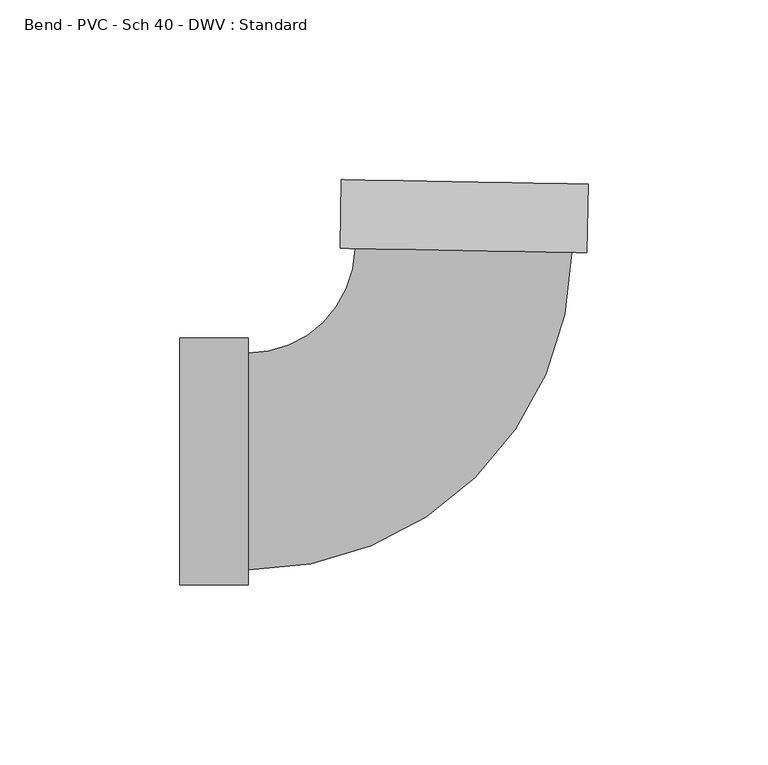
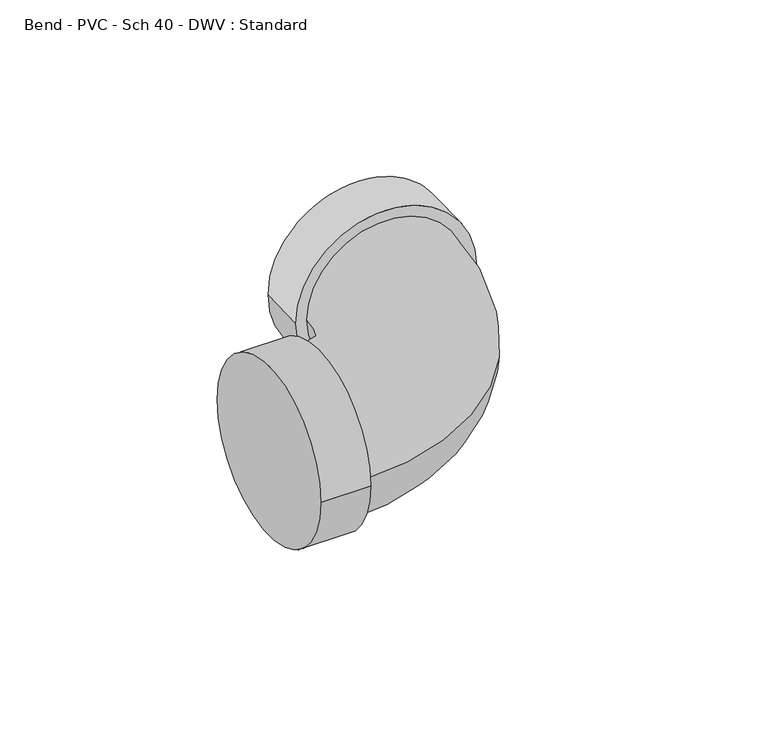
"""IFC4 building model written with IfcOpenShell, lengths in millimetres: pipe fitting geometry, Bend - PVC - Sch 40 - DWV : Standard."""

import ifcopenshell
import ifcopenshell.guid

model = None  # the IFC model being written
_history = None  # IfcOwnerHistory: only IFC2X3 demands one
_inside = {}  # id of a spatial element -> (the spatial element, [elements in it])
_under = {}  # id of a project, library or spatial element -> (it, [spatial elements below it])
_declared = {}  # id of a project -> (the project, [libraries it declares])
_typed = {}  # id of a type object -> (the type object, [elements of that type])
_made_of = {}  # id of a material, layer set ... -> (it, [elements and type objects made of it])


def new_model(schema):
    """Start an empty IFC model of exactly this schema.

    Asked for "IFC4X3", IfcOpenShell would pick the latest addendum, in which some entities
    have other attributes; the version numbers below select the first issue.
    IFC2X3 requires an IfcOwnerHistory on every rooted entity: one is made here for all.
    """
    global model, _history
    if schema == "IFC4X3":
        model = ifcopenshell.file(schema_version=(4, 3, 0, 0))
    else:
        model = ifcopenshell.file(schema=schema)
    _inside.clear()
    _under.clear()
    _declared.clear()
    _typed.clear()
    _made_of.clear()
    _history = None
    if model.schema == "IFC2X3":
        org = make("IfcOrganization", Name="unknown")
        user = make(
            "IfcPersonAndOrganization",
            ThePerson=make("IfcPerson", FamilyName="unknown"),
            TheOrganization=org,
        )
        app = make(
            "IfcApplication",
            ApplicationDeveloper=org,
            Version="unknown",
            ApplicationFullName="unknown",
            ApplicationIdentifier="unknown",
        )
        _history = make(
            "IfcOwnerHistory",
            OwningUser=user,
            OwningApplication=app,
            ChangeAction="ADDED",
            CreationDate=0,
        )
    return model


def make(cls, **values):
    """One entity of the class cls with the attributes given. An attribute that is None is left unset."""
    return model.create_entity(
        cls, **{name: value for name, value in values.items() if value is not None}
    )


def rooted(cls, **values):
    """An entity with a GlobalId (a new one), such as an element, a storey or a relation."""
    return make(cls, GlobalId=ifcopenshell.guid.new(), OwnerHistory=_history, **values)


def si_unit(unit_type, name, prefix=None):
    """IfcSIUnit, for example si_unit("LENGTHUNIT", "METRE", prefix="MILLI")."""
    return make("IfcSIUnit", UnitType=unit_type, Prefix=prefix, Name=name)


def assignment(units):
    """IfcUnitAssignment: the units of a project."""
    return None if units is None else make("IfcUnitAssignment", Units=units)


def point(xyz):
    """IfcCartesianPoint."""
    return None if xyz is None else make("IfcCartesianPoint", Coordinates=xyz)


def direction(xyz):
    """IfcDirection."""
    return None if xyz is None else make("IfcDirection", DirectionRatios=xyz)


def frame(location, z_axis=None, x_axis=None):
    """IfcAxis2Placement3D, a coordinate frame: its origin and axes. An axis left out is left unset."""
    return make(
        "IfcAxis2Placement3D",
        Location=point(location),
        Axis=direction(z_axis),
        RefDirection=direction(x_axis),
    )


def origin():
    """The frame at (0, 0, 0) with its axes left unset."""
    return frame((0.0, 0.0, 0.0))


def place(relative_to, where):
    """IfcLocalPlacement: puts the frame where relative to a parent placement (None: the world)."""
    return make(
        "IfcLocalPlacement", PlacementRelTo=relative_to, RelativePlacement=where
    )


def context(
    kind, dimensions, precision=None, world=None, true_north=None, identifier=None
):
    """IfcGeometricRepresentationContext, for example the 3D "Model" context."""
    return make(
        "IfcGeometricRepresentationContext",
        ContextIdentifier=identifier,
        ContextType=kind,
        CoordinateSpaceDimension=dimensions,
        Precision=precision,
        WorldCoordinateSystem=world,
        TrueNorth=true_north,
    )


def project(units=None, contexts=None):
    """IfcProject with its units and contexts."""
    return rooted(
        "IfcProject",
        Name="project",
        RepresentationContexts=contexts,
        UnitsInContext=assignment(units),
    )


def spatial(cls, under=None, at=None, **own):
    """A site, building, storey or space (cls), placed at a placement, below another one or the project."""
    s = rooted(cls, ObjectPlacement=at, **own)
    if under is not None:
        _under.setdefault(under.id(), (under, []))[1].append(s)
    return s


def circle_curve(where, radius):
    """IfcCircle in the frame where."""
    return make("IfcCircle", Position=where, Radius=radius)


def ellipse_curve(where, semi_axis1, semi_axis2):
    """IfcEllipse in the frame where."""
    return make(
        "IfcEllipse", Position=where, SemiAxis1=semi_axis1, SemiAxis2=semi_axis2
    )


def trimmed(basis, trim1, trim2, sense, master):
    """IfcTrimmedCurve: the piece of a basis curve between two trims."""
    return make(
        "IfcTrimmedCurve",
        BasisCurve=basis,
        Trim1=trim1,
        Trim2=trim2,
        SenseAgreement=sense,
        MasterRepresentation=master,
    )


def shape(context_of_items, identifier, shape_type, items):
    """IfcShapeRepresentation: the items that make up one representation, for example the "Body"."""
    return make(
        "IfcShapeRepresentation",
        ContextOfItems=context_of_items,
        RepresentationIdentifier=identifier,
        RepresentationType=shape_type,
        Items=items,
    )


def source(mapping_origin, context_of_items, identifier, shape_type, items):
    """IfcRepresentationMap: a shape defined once, which mapped items show again and again."""
    return make(
        "IfcRepresentationMap",
        MappingOrigin=mapping_origin,
        MappedRepresentation=shape(context_of_items, identifier, shape_type, items),
    )


def transform(
    local_origin,
    x_axis=None,
    y_axis=None,
    z_axis=None,
    scale=None,
    scale2=None,
    scale3=None,
    uniform=True,
):
    """IfcCartesianTransformationOperator3D, or its non-uniform kind. x_axis, y_axis, z_axis: its Axis1, 2, 3."""
    if uniform:
        return make(
            "IfcCartesianTransformationOperator3D",
            Axis1=direction(x_axis),
            Axis2=direction(y_axis),
            LocalOrigin=point(local_origin),
            Scale=scale,
            Axis3=direction(z_axis),
        )
    return make(
        "IfcCartesianTransformationOperator3DnonUniform",
        Axis1=direction(x_axis),
        Axis2=direction(y_axis),
        LocalOrigin=point(local_origin),
        Scale=scale,
        Axis3=direction(z_axis),
        Scale2=scale2,
        Scale3=scale3,
    )


def mapped(mapping_source, mapping_target):
    """IfcMappedItem: shows the shape of a source again, moved by a transform."""
    return make(
        "IfcMappedItem", MappingSource=mapping_source, MappingTarget=mapping_target
    )


def made_of(thing, what):
    """Note that an element or type object is made of a material, layer set ...; save() writes the relation."""
    if what is not None:
        _made_of.setdefault(what.id(), (what, []))[1].append(thing)
    return thing


def element(
    cls,
    number,
    at=None,
    inside=None,
    cuts=None,
    type_object=None,
    material=None,
    context=None,
    identifier="Body",
    shape_type=None,
    held_by="IfcProductDefinitionShape",
    body=None,
    shapes=None,
    **own,
):
    """One element of the class cls, such as IfcWall. Its Tag is "e" and its number.

    at: its placement. inside: the storey or other place that contains it. cuts: it is an
    opening in that element (IfcRelVoidsElement). A single representation is given by context,
    identifier, shape_type and body (its items); several are given by shapes. held_by: the class
    of the entity that holds the representations. save() writes the other relations.
    """
    e = rooted(cls, Tag="e%d" % number, ObjectPlacement=at, **own)
    if body is not None:
        shapes = [shape(context, identifier, shape_type, body)]
    if shapes is not None:
        e.Representation = make(held_by, Representations=shapes)
    if inside is not None:
        _inside.setdefault(inside.id(), (inside, []))[1].append(e)
    if cuts is not None:
        rooted(
            "IfcRelVoidsElement", RelatingBuildingElement=cuts, RelatedOpeningElement=e
        )
    if type_object is not None:
        _typed.setdefault(type_object.id(), (type_object, []))[1].append(e)
    return made_of(e, material)


def aggregate(whole, parts):
    """IfcRelAggregates: a whole, such as a stair, and the parts it consists of."""
    return rooted("IfcRelAggregates", RelatingObject=whole, RelatedObjects=parts)


def save(model, path):
    """Write the relations noted so far, then the file.

    IfcRelAggregates (storeys below a building ...), IfcRelContainedInSpatialStructure (elements
    in a storey), IfcRelDefinesByType, IfcRelAssociatesMaterial and IfcRelDeclares: one each for
    every whole, place, type object, material and project.
    """
    for whole, parts in _under.values():
        aggregate(whole, parts)
    for where, things in _inside.values():
        rooted(
            "IfcRelContainedInSpatialStructure",
            RelatedElements=things,
            RelatingStructure=where,
        )
    for kind, things in _typed.values():
        rooted("IfcRelDefinesByType", RelatedObjects=things, RelatingType=kind)
    for what, things in _made_of.values():
        rooted("IfcRelAssociatesMaterial", RelatedObjects=things, RelatingMaterial=what)
    for by, libraries in _declared.values():
        rooted("IfcRelDeclares", RelatingContext=by, RelatedDefinitions=libraries)
    model.write(path)


def plane_surface(at):
    """IfcPlane: the flat surface through the origin of the frame at, square to its z axis."""
    return make("IfcPlane", Position=at)


def cylinder_surface(at, radius):
    """IfcCylindricalSurface: all points at the distance radius from the z axis of the frame at."""
    return make("IfcCylindricalSurface", Position=at, Radius=radius)


def revolved_surface(curve, axis_point, axis_direction):
    """IfcSurfaceOfRevolution: the curve turned about the line through axis_point along axis_direction."""
    return make(
        "IfcSurfaceOfRevolution",
        SweptCurve=make("IfcArbitraryOpenProfileDef", ProfileType="CURVE", Curve=curve),
        AxisPosition=make("IfcAxis1Placement", Location=point(axis_point), Axis=direction(axis_direction)),
    )


def advanced_brep(points, edges, surfaces, faces):
    """IfcAdvancedBrep: a solid bounded by faces that lie on surfaces and meet in shared edges.

    An edge is (start, end): straight between two places in points (the first is 0);
    or (start, end, curve); or (start, end, curve, False) where it runs against its curve.
    A face is (place in surfaces, loops), or (place, loops, False) where it looks against
    its surface's normal. A loop lists edges by number (the first is 1), with a minus sign
    where the edge is run from its end to its start. The first loop is the outer one.
    """
    corners = [point(p) for p in points]
    vertices = [make("IfcVertexPoint", VertexGeometry=c) for c in corners]
    made = []
    for start, end, *more in edges:
        made.append(
            make(
                "IfcEdgeCurve",
                EdgeStart=vertices[start],
                EdgeEnd=vertices[end],
                EdgeGeometry=more[0] if more else make("IfcPolyline", Points=[corners[start], corners[end]]),
                SameSense=more[1] if len(more) > 1 else True,
            )
        )
    hull = []
    for where, loops, *sense in faces:
        bounds = []
        for j, loop in enumerate(loops):
            ring = [make("IfcOrientedEdge", EdgeElement=made[abs(k) - 1], Orientation=k > 0) for k in loop]
            bounds.append(
                make(
                    "IfcFaceOuterBound" if j == 0 else "IfcFaceBound",
                    Bound=make("IfcEdgeLoop", EdgeList=ring),
                    Orientation=True,
                )
            )
        hull.append(make("IfcAdvancedFace", Bounds=bounds, FaceSurface=surfaces[where], SameSense=sense[0] if sense else True))
    return make("IfcAdvancedBrep", Outer=make("IfcClosedShell", CfsFaces=hull))


def bend_pvc_sch_40_dwv_standard_a5f90810(model_context):
    return source(origin(), model_context, "Body", "AdvancedBrep", [
        advanced_brep(
        [(-77.8002, -34.3154, 0.0), (-77.8002, 34.3154, 0.0), (-58.7502, -34.3154, 0.0), (-58.7502, 34.3154, 0.0), (-58.7502, -30.1625, 0.0), (-58.7502, 30.1625, 0.0), (-29.104435, 59.2814834, 0.0), (31.2108706, 58.200034, 0.0), (35.3631033, 58.1255848, 0.0), (-33.2566676, 59.3559326, 0.0), (35.7046136, 77.1725234, 0.0), (-32.9151573, 78.4028712, 0.0)],
        [
            (0, 1, circle_curve(frame((-77.8002, 0.0, 0.0), z_axis=(-1.0, 0.0, 0.0), x_axis=(0.0, 1.0, 0.0)), 34.3154)),
            (1, 0, circle_curve(frame((-77.8002, 0.0, 0.0), z_axis=(-1.0, 0.0, 0.0), x_axis=(0.0, 1.0, 0.0)), 34.3154)),
            (2, 3, circle_curve(frame((-58.7502, 0.0, 0.0), z_axis=(1.0, 0.0, 0.0), x_axis=(0.0, 1.0, 0.0)), 34.3154)),
            (3, 2, circle_curve(frame((-58.7502, 0.0, 0.0), z_axis=(1.0, 0.0, 0.0), x_axis=(0.0, 1.0, 0.0)), 34.3154)),
            (4, 5, circle_curve(frame((-58.7502, 0.0, 0.0), z_axis=(-1.0, 0.0, 0.0), x_axis=(0.0, 1.0, 0.0)), 30.1625)),
            (5, 4, circle_curve(frame((-58.7502, 0.0, 0.0), z_axis=(-1.0, 0.0, 0.0), x_axis=(0.0, 1.0, 0.0)), 30.1625)),
            (0, 2),
            (3, 1),
            (6, 5, circle_curve(frame((-58.7502, 59.8130299, 0.0), z_axis=(0.0, 0.0, -1.0), x_axis=(0.0, -1.0, 0.0)), 29.6505299)),
            (4, 7, circle_curve(frame((-58.7502, 59.8130299, 0.0), z_axis=(0.0, 0.0, 1.0), x_axis=(0.0, -1.0, 0.0)), 89.9755299)),
            (7, 6, circle_curve(frame((1.0532178, 58.7407587, 0.0), z_axis=(-0.017927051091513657, -0.9998392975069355, 0.0), x_axis=(-0.9998392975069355, 0.017927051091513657, 0.0)), 30.1625)),
            (6, 7, circle_curve(frame((1.0532178, 58.7407587, 0.0), z_axis=(-0.017927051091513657, -0.9998392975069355, 0.0), x_axis=(-0.9998392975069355, 0.017927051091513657, 0.0)), 30.1625)),
            (8, 9, circle_curve(frame((1.0532178, 58.7407587, 0.0), z_axis=(-0.017927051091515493, -0.9998392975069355, 0.0), x_axis=(-0.9998392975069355, 0.017927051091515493, 0.0)), 34.3154)),
            (9, 8, circle_curve(frame((1.0532178, 58.7407587, 0.0), z_axis=(-0.017927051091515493, -0.9998392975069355, 0.0), x_axis=(-0.9998392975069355, 0.017927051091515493, 0.0)), 34.3154)),
            (10, 11, circle_curve(frame((1.3947282, 77.7876973, 0.0), z_axis=(0.017927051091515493, 0.9998392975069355, 0.0), x_axis=(-0.9998392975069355, 0.017927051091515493, 0.0)), 34.3154)),
            (11, 10, circle_curve(frame((1.3947282, 77.7876973, 0.0), z_axis=(0.017927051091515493, 0.9998392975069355, 0.0), x_axis=(-0.9998392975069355, 0.017927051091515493, 0.0)), 34.3154)),
            (8, 10),
            (11, 9),
        ],
        [
            plane_surface(frame((-77.8002, 0.0, 0.0), z_axis=(-1.0, 0.0, 0.0), x_axis=(0.0, 0.0, 1.0))),
            plane_surface(frame((-58.7502, 0.0, 0.0), z_axis=(1.0, 0.0, 0.0), x_axis=(0.0, 0.0, 1.0))),
            cylinder_surface(frame((-77.8002, 0.0, 0.0), z_axis=(-1.0, 0.0, 0.0), x_axis=(0.0, 1.0, 0.0)), 34.3154),
            revolved_surface(trimmed(ellipse_curve(frame((-58.7502, 0.0, 0.0), z_axis=(-1.0, 0.0, 0.0), x_axis=(0.0, 1.0, 0.0)), 30.1625, 30.1625), [point((-58.7502, -30.1625, 0.0))], [point((-58.7502, 30.1625, 0.0))], True, "CARTESIAN"), (-58.7502, 59.8130299, 0.0), (0.0, 0.0, 1.0)),
            revolved_surface(trimmed(ellipse_curve(frame((-58.7502, 0.0, 0.0), z_axis=(-1.0, 0.0, 0.0), x_axis=(0.0, 1.0, 0.0)), 30.1625, 30.1625), [point((-58.7502, 30.1625, 0.0))], [point((-58.7502, -30.1625, 0.0))], True, "CARTESIAN"), (-58.7502, 59.8130299, 0.0), (0.0, 0.0, 1.0)),
            plane_surface(frame((1.0532178, 58.7407587, 0.0), z_axis=(-0.017927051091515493, -0.9998392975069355, 0.0), x_axis=(0.0, 0.0, 1.0))),
            plane_surface(frame((1.3947282, 77.7876973, 0.0), z_axis=(0.017927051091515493, 0.9998392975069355, 0.0), x_axis=(0.0, 0.0, 1.0))),
            cylinder_surface(frame((1.0532178, 58.7407587, 0.0), z_axis=(-0.017927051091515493, -0.9998392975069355, 0.0), x_axis=(-0.9998392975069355, 0.017927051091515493, 0.0)), 34.3154),
        ],
        [
            (0, [[1, 2]]),
            (1, [[3, 4], [5, 6]]),
            (2, [[-1, 7, -4, 8]]),
            (2, [[-2, -8, -3, -7]]),
            (3, [[9, -5, 10, 11]]),
            (4, [[-9, 12, -10, -6]]),
            (5, [[13, 14], [-11, -12]]),
            (6, [[15, 16]]),
            (7, [[-13, 17, -16, 18]]),
            (7, [[-14, -18, -15, -17]]),
        ],
    ),
    ])


if __name__ == "__main__":
    model = new_model("IFC4")
    model_context = context("Model", 3, world=origin())
    ifc_project = project(units=[si_unit("LENGTHUNIT", "METRE", prefix="MILLI")], contexts=[model_context])
    site = spatial("IfcSite", under=ifc_project)
    building = spatial("IfcBuilding", under=site)
    placement = place(None, origin())
    bend_pvc_sch_40_dwv_standard_shape = bend_pvc_sch_40_dwv_standard_a5f90810(model_context)
    element("IfcPipeFitting", 1, ObjectType="Bend - PVC - Sch 40 - DWV : Standard", at=placement, inside=building, context=model_context, shape_type="MappedRepresentation", body=[
        mapped(bend_pvc_sch_40_dwv_standard_shape, transform((0.0, 0.0, 0.0), x_axis=(1.0, 0.0, 0.0), y_axis=(0.0, 1.0, 0.0), z_axis=(0.0, 0.0, 1.0))),
    ])
    save(model, "model.ifc")
